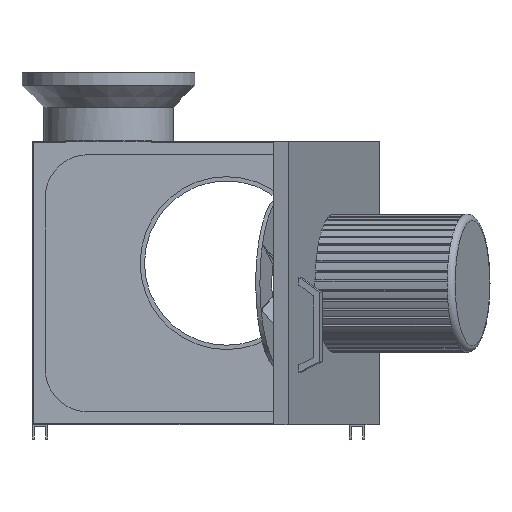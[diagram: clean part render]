
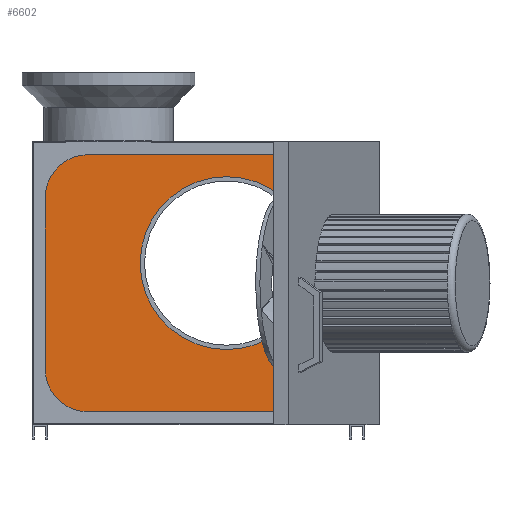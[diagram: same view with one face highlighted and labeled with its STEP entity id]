
A CAD part, left-side view. The second image highlights one B-rep face of the part: STEP entity #6602.
In plain terms, the highlighted planar face has unit normal (-1, 0, 0).
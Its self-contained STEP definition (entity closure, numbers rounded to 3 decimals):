
#86=FACE_BOUND('',#898,.T.);
#505=FACE_OUTER_BOUND('',#897,.T.);
#897=EDGE_LOOP('',(#5868,#5869,#5870,#5871,#5872,#5873,#5874,#5875));
#898=EDGE_LOOP('',(#5876));
#1612=LINE('',#11429,#2315);
#1613=LINE('',#11431,#2316);
#1614=LINE('',#11433,#2317);
#1615=LINE('',#11435,#2318);
#1616=LINE('',#11437,#2319);
#1617=LINE('',#11439,#2320);
#1618=LINE('',#11441,#2321);
#1619=LINE('',#11442,#2322);
#2315=VECTOR('',#8944,10.);
#2316=VECTOR('',#8945,10.);
#2317=VECTOR('',#8946,10.);
#2318=VECTOR('',#8947,10.);
#2319=VECTOR('',#8948,10.);
#2320=VECTOR('',#8949,10.);
#2321=VECTOR('',#8950,10.);
#2322=VECTOR('',#8951,10.);
#2537=CIRCLE('',#7159,200.);
#3101=VERTEX_POINT('',#11398);
#3113=VERTEX_POINT('',#11427);
#3114=VERTEX_POINT('',#11428);
#3115=VERTEX_POINT('',#11430);
#3116=VERTEX_POINT('',#11432);
#3117=VERTEX_POINT('',#11434);
#3118=VERTEX_POINT('',#11436);
#3119=VERTEX_POINT('',#11438);
#3120=VERTEX_POINT('',#11440);
#4027=EDGE_CURVE('',#3101,#3101,#2537,.T.);
#4041=EDGE_CURVE('',#3113,#3114,#1612,.T.);
#4042=EDGE_CURVE('',#3115,#3114,#1613,.F.);
#4043=EDGE_CURVE('',#3116,#3115,#1614,.F.);
#4044=EDGE_CURVE('',#3117,#3116,#1615,.F.);
#4045=EDGE_CURVE('',#3118,#3117,#1616,.F.);
#4046=EDGE_CURVE('',#3119,#3118,#1617,.F.);
#4047=EDGE_CURVE('',#3119,#3120,#1618,.T.);
#4048=EDGE_CURVE('',#3113,#3120,#1619,.T.);
#5868=ORIENTED_EDGE('',*,*,#4041,.T.);
#5869=ORIENTED_EDGE('',*,*,#4042,.F.);
#5870=ORIENTED_EDGE('',*,*,#4043,.F.);
#5871=ORIENTED_EDGE('',*,*,#4044,.F.);
#5872=ORIENTED_EDGE('',*,*,#4045,.F.);
#5873=ORIENTED_EDGE('',*,*,#4046,.F.);
#5874=ORIENTED_EDGE('',*,*,#4047,.T.);
#5875=ORIENTED_EDGE('',*,*,#4048,.F.);
#5876=ORIENTED_EDGE('',*,*,#4027,.T.);
#6235=PLANE('',#7162);
#6602=ADVANCED_FACE('',(#505,#86),#6235,.F.);
#7159=AXIS2_PLACEMENT_3D('',#11399,#8923,#8924);
#7162=AXIS2_PLACEMENT_3D('',#11426,#8942,#8943);
#8923=DIRECTION('center_axis',(1.,0.,0.));
#8924=DIRECTION('ref_axis',(0.,1.,0.));
#8942=DIRECTION('center_axis',(1.,0.,0.));
#8943=DIRECTION('ref_axis',(0.,0.,-1.));
#8944=DIRECTION('',(0.,0.,-1.));
#8945=DIRECTION('',(0.,1.,0.));
#8946=DIRECTION('',(0.,0.,-1.));
#8947=DIRECTION('',(0.,-1.,0.));
#8948=DIRECTION('',(0.,0.,1.));
#8949=DIRECTION('',(0.,1.,0.));
#8950=DIRECTION('',(0.,0.,1.));
#8951=DIRECTION('',(0.,-1.,0.));
#11398=CARTESIAN_POINT('',(-2.,-265.,46.5));
#11399=CARTESIAN_POINT('Origin',(-2.,-65.,46.5));
#11426=CARTESIAN_POINT('Origin',(-2.,0.,0.));
#11427=CARTESIAN_POINT('',(-2.,250.213,329.5));
#11428=CARTESIAN_POINT('',(-2.,250.213,325.5));
#11429=CARTESIAN_POINT('',(-2.,250.213,367.));
#11430=CARTESIAN_POINT('',(-2.,383.,325.5));
#11431=CARTESIAN_POINT('',(-2.,-192.5,325.5));
#11432=CARTESIAN_POINT('',(-2.,383.,-325.5));
#11433=CARTESIAN_POINT('',(-2.,383.,163.75));
#11434=CARTESIAN_POINT('',(-2.,-383.,-325.5));
#11435=CARTESIAN_POINT('',(-2.,192.5,-325.5));
#11436=CARTESIAN_POINT('',(-2.,-383.,325.5));
#11437=CARTESIAN_POINT('',(-2.,-383.,-163.75));
#11438=CARTESIAN_POINT('',(-2.,166.787,325.5));
#11439=CARTESIAN_POINT('',(-2.,-192.5,325.5));
#11440=CARTESIAN_POINT('',(-2.,166.787,329.5));
#11441=CARTESIAN_POINT('',(-2.,166.787,367.));
#11442=CARTESIAN_POINT('',(-2.,104.25,329.5));
